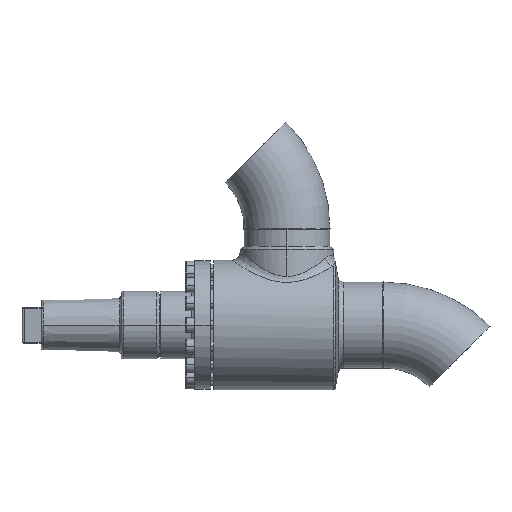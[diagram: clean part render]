
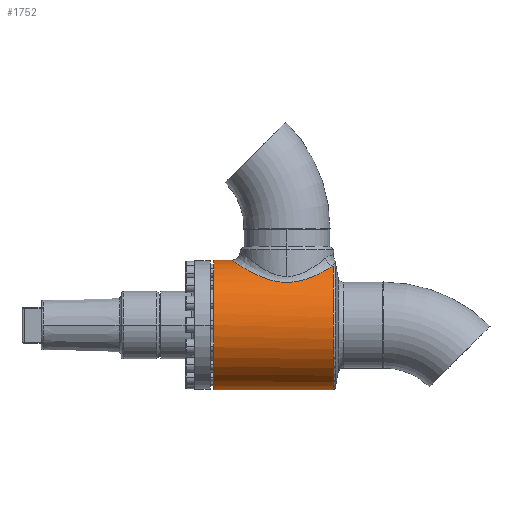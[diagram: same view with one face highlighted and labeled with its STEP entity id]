
A CAD part, left-side view. The second image highlights one B-rep face of the part: STEP entity #1752.
In plain terms, the highlighted cylindrical face has radius 57.5 mm (diameter 115 mm), a partial arc.
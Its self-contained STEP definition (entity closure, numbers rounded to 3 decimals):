
#786 = VERTEX_POINT ( 'NONE', #14498 ) ;
#17272 = VERTEX_POINT ( 'NONE', #11166 ) ;
#1007 = EDGE_CURVE ( 'NONE', #13046, #786, #14609, .T. ) ;
#1497 = ORIENTED_EDGE ( 'NONE', *, *, #7339, .T. ) ;
#1752 = ADVANCED_FACE ( 'NONE', ( #15184 ), #15185, .T. ) ;
#5185 = EDGE_CURVE ( 'NONE', #12570, #17272, #11923, .T. ) ;
#6863 = ORIENTED_EDGE ( 'NONE', *, *, #5185, .T. ) ;
#7339 = EDGE_CURVE ( 'NONE', #786, #12570, #9395, .T. ) ;
#9395 = B_SPLINE_CURVE_WITH_KNOTS ( 'NONE', 3,
 ( #9396, #9397, #9398, #9399, #9400, #9401, #9402, #9403, #9404, #9405, #9406, #9409, #9410, #9411, #9412, #9413, #9414, #9415, #9416, #9417, #9418, #9419, #9420, #9421, #9422, #9423, #9424, #9425, #9426, #9427, #9428, #9429, #9430, #9431, #9432, #9433, #9434, #9435, #9436, #9437, #9438, #9439, #9440, #9445, #9446, #9447, #9448, #9449, #9450, #9451, #9452, #9453, #9454, #9455, #9456, #9457, #9458, #9459, #9460, #9465, #9466, #9467 ),
 .UNSPECIFIED., .F., .F.,
 ( 4, 2, 2, 2, 2, 2, 2, 2, 2, 2, 2, 2, 2, 2, 2, 2, 2, 2, 2, 2, 2, 2, 2, 2, 2, 2, 2, 2, 2, 2, 4 ),
 ( 0., 0.008, 0.016, 0.017, 0.019, 0.023, 0.031, 0.035, 0.039, 0.047, 0.049, 0.05, 0.054, 0.058, 0.06, 0.062, 0.07, 0.074, 0.078, 0.085, 0.089, 0.091, 0.093, 0.101, 0.105, 0.107, 0.109, 0.116, 0.118, 0.12, 0.124 ),
 .UNSPECIFIED. ) ;
#9396 = CARTESIAN_POINT ( 'NONE',  ( -24.174, -105.892, 52.171 ) ) ;
#9397 = CARTESIAN_POINT ( 'NONE',  ( -26.132, -104.39, 51.264 ) ) ;
#9398 = CARTESIAN_POINT ( 'NONE',  ( -27.915, -102.76, 50.305 ) ) ;
#9399 = CARTESIAN_POINT ( 'NONE',  ( -31.195, -99.268, 48.34 ) ) ;
#9400 = CARTESIAN_POINT ( 'NONE',  ( -32.691, -97.405, 47.333 ) ) ;
#9401 = CARTESIAN_POINT ( 'NONE',  ( -34.397, -94.927, 46.079 ) ) ;
#9402 = CARTESIAN_POINT ( 'NONE',  ( -34.73, -94.424, 45.829 ) ) ;
#9403 = CARTESIAN_POINT ( 'NONE',  ( -35.379, -93.402, 45.329 ) ) ;
#9404 = CARTESIAN_POINT ( 'NONE',  ( -35.695, -92.884, 45.08 ) ) ;
#9405 = CARTESIAN_POINT ( 'NONE',  ( -36.613, -91.317, 44.344 ) ) ;
#9406 = CARTESIAN_POINT ( 'NONE',  ( -37.186, -90.253, 43.863 ) ) ;
#9409 = CARTESIAN_POINT ( 'NONE',  ( -38.793, -86.998, 42.466 ) ) ;
#9410 = CARTESIAN_POINT ( 'NONE',  ( -39.716, -84.747, 41.594 ) ) ;
#9411 = CARTESIAN_POINT ( 'NONE',  ( -40.882, -81.225, 40.437 ) ) ;
#9412 = CARTESIAN_POINT ( 'NONE',  ( -41.234, -80.027, 40.077 ) ) ;
#9413 = CARTESIAN_POINT ( 'NONE',  ( -41.862, -77.576, 39.421 ) ) ;
#9414 = CARTESIAN_POINT ( 'NONE',  ( -42.138, -76.319, 39.125 ) ) ;
#9415 = CARTESIAN_POINT ( 'NONE',  ( -42.831, -72.529, 38.37 ) ) ;
#9416 = CARTESIAN_POINT ( 'NONE',  ( -43.12, -69.961, 38.038 ) ) ;
#9417 = CARTESIAN_POINT ( 'NONE',  ( -43.257, -66.692, 37.883 ) ) ;
#9418 = CARTESIAN_POINT ( 'NONE',  ( -43.273, -66.034, 37.864 ) ) ;
#9419 = CARTESIAN_POINT ( 'NONE',  ( -43.282, -64.718, 37.854 ) ) ;
#9420 = CARTESIAN_POINT ( 'NONE',  ( -43.275, -64.063, 37.862 ) ) ;
#9421 = CARTESIAN_POINT ( 'NONE',  ( -43.219, -62.103, 37.926 ) ) ;
#9422 = CARTESIAN_POINT ( 'NONE',  ( -43.137, -60.806, 38.02 ) ) ;
#9423 = CARTESIAN_POINT ( 'NONE',  ( -42.884, -58.229, 38.305 ) ) ;
#9424 = CARTESIAN_POINT ( 'NONE',  ( -42.713, -56.95, 38.496 ) ) ;
#9425 = CARTESIAN_POINT ( 'NONE',  ( -42.391, -55.043, 38.85 ) ) ;
#9426 = CARTESIAN_POINT ( 'NONE',  ( -42.272, -54.408, 38.979 ) ) ;
#9427 = CARTESIAN_POINT ( 'NONE',  ( -42.014, -53.15, 39.257 ) ) ;
#9428 = CARTESIAN_POINT ( 'NONE',  ( -41.875, -52.528, 39.406 ) ) ;
#9429 = CARTESIAN_POINT ( 'NONE',  ( -41.13, -49.446, 40.191 ) ) ;
#9430 = CARTESIAN_POINT ( 'NONE',  ( -40.378, -47.077, 40.957 ) ) ;
#9431 = CARTESIAN_POINT ( 'NONE',  ( -39.022, -43.642, 42.237 ) ) ;
#9432 = CARTESIAN_POINT ( 'NONE',  ( -38.532, -42.517, 42.685 ) ) ;
#9433 = CARTESIAN_POINT ( 'NONE',  ( -37.473, -40.304, 43.618 ) ) ;
#9434 = CARTESIAN_POINT ( 'NONE',  ( -36.908, -39.223, 44.098 ) ) ;
#9435 = CARTESIAN_POINT ( 'NONE',  ( -35.115, -36.073, 45.559 ) ) ;
#9436 = CARTESIAN_POINT ( 'NONE',  ( -33.785, -34.085, 46.562 ) ) ;
#9437 = CARTESIAN_POINT ( 'NONE',  ( -31.574, -31.259, 48.064 ) ) ;
#9438 = CARTESIAN_POINT ( 'NONE',  ( -30.801, -30.343, 48.564 ) ) ;
#9439 = CARTESIAN_POINT ( 'NONE',  ( -29.582, -29.009, 49.309 ) ) ;
#9440 = CARTESIAN_POINT ( 'NONE',  ( -29.166, -28.57, 49.557 ) ) ;
#9445 = CARTESIAN_POINT ( 'NONE',  ( -28.313, -27.708, 50.049 ) ) ;
#9446 = CARTESIAN_POINT ( 'NONE',  ( -27.875, -27.282, 50.294 ) ) ;
#9447 = CARTESIAN_POINT ( 'NONE',  ( -25.646, -25.201, 51.504 ) ) ;
#9448 = CARTESIAN_POINT ( 'NONE',  ( -23.737, -23.688, 52.419 ) ) ;
#9449 = CARTESIAN_POINT ( 'NONE',  ( -20.66, -21.659, 53.671 ) ) ;
#9450 = CARTESIAN_POINT ( 'NONE',  ( -19.599, -21.023, 54.069 ) ) ;
#9451 = CARTESIAN_POINT ( 'NONE',  ( -17.948, -20.134, 54.63 ) ) ;
#9452 = CARTESIAN_POINT ( 'NONE',  ( -17.388, -19.848, 54.811 ) ) ;
#9453 = CARTESIAN_POINT ( 'NONE',  ( -16.247, -19.3, 55.16 ) ) ;
#9454 = CARTESIAN_POINT ( 'NONE',  ( -15.665, -19.037, 55.328 ) ) ;
#9455 = CARTESIAN_POINT ( 'NONE',  ( -12.734, -17.796, 56.125 ) ) ;
#9456 = CARTESIAN_POINT ( 'NONE',  ( -10.302, -17.028, 56.627 ) ) ;
#9457 = CARTESIAN_POINT ( 'NONE',  ( -7.142, -16.371, 57.058 ) ) ;
#9458 = CARTESIAN_POINT ( 'NONE',  ( -6.505, -16.254, 57.135 ) ) ;
#9459 = CARTESIAN_POINT ( 'NONE',  ( -5.216, -16.054, 57.267 ) ) ;
#9460 = CARTESIAN_POINT ( 'NONE',  ( -4.563, -15.969, 57.322 ) ) ;
#9465 = CARTESIAN_POINT ( 'NONE',  ( -2.602, -15.766, 57.456 ) ) ;
#9466 = CARTESIAN_POINT ( 'NONE',  ( -1.298, -15.7, 57.5 ) ) ;
#9467 = CARTESIAN_POINT ( 'NONE',  ( 0., -15.7, 57.5 ) ) ;
#9609 = VERTEX_POINT ( 'NONE', #14210 ) ;
#9828 = EDGE_CURVE ( 'NONE', #13046, #9609, #14452, .T. ) ;
#9986 = EDGE_LOOP ( 'NONE', ( #11980, #11479, #1497, #6863, #13427 ) ) ;
#10092 = CARTESIAN_POINT ( 'NONE',  ( 0., -15.7, 57.5 ) ) ;
#10572 = CARTESIAN_POINT ( 'NONE',  ( 0., -105.892, -57.5 ) ) ;
#10621 = CIRCLE ( 'NONE', #10622, 57.5 ) ;
#10622 = AXIS2_PLACEMENT_3D ( 'NONE', #10623, #10624, #10625 ) ;
#10623 = CARTESIAN_POINT ( 'NONE',  ( 0., 0., 0. ) ) ;
#10624 = DIRECTION ( 'NONE',  ( 0., 1., 0. ) ) ;
#10625 = DIRECTION ( 'NONE',  ( 0., 0., 1. ) ) ;
#11166 = CARTESIAN_POINT ( 'NONE',  ( 0., 0., 57.5 ) ) ;
#11479 = ORIENTED_EDGE ( 'NONE', *, *, #1007, .T. ) ;
#11923 = LINE ( 'NONE', #11924, #11925 ) ;
#11924 = CARTESIAN_POINT ( 'NONE',  ( 0., -111., 57.5 ) ) ;
#11925 = VECTOR ( 'NONE', #11926, 1000. ) ;
#11926 = DIRECTION ( 'NONE',  ( 0., 1., 0. ) ) ;
#11980 = ORIENTED_EDGE ( 'NONE', *, *, #9828, .F. ) ;
#12570 = VERTEX_POINT ( 'NONE', #10092 ) ;
#13046 = VERTEX_POINT ( 'NONE', #10572 ) ;
#13098 = EDGE_CURVE ( 'NONE', #9609, #17272, #10621, .T. ) ;
#13427 = ORIENTED_EDGE ( 'NONE', *, *, #13098, .F. ) ;
#14210 = CARTESIAN_POINT ( 'NONE',  ( 0., 0., -57.5 ) ) ;
#14452 = LINE ( 'NONE', #14453, #14454 ) ;
#14453 = CARTESIAN_POINT ( 'NONE',  ( 0., -111., -57.5 ) ) ;
#14454 = VECTOR ( 'NONE', #14455, 1000. ) ;
#14455 = DIRECTION ( 'NONE',  ( 0., 1., 0. ) ) ;
#14498 = CARTESIAN_POINT ( 'NONE',  ( -24.174, -105.892, 52.171 ) ) ;
#14609 = CIRCLE ( 'NONE', #14610, 57.5 ) ;
#14610 = AXIS2_PLACEMENT_3D ( 'NONE', #14611, #14612, #14613 ) ;
#14611 = CARTESIAN_POINT ( 'NONE',  ( 0., -105.892, 0. ) ) ;
#14612 = DIRECTION ( 'NONE',  ( 0., 1., 0. ) ) ;
#14613 = DIRECTION ( 'NONE',  ( 0., 0., -1. ) ) ;
#15184 = FACE_OUTER_BOUND ( 'NONE', #9986, .T. ) ;
#15185 = CYLINDRICAL_SURFACE ( 'NONE', #15186, 57.5 ) ;
#15186 = AXIS2_PLACEMENT_3D ( 'NONE', #15187, #15188, #15189 ) ;
#15187 = CARTESIAN_POINT ( 'NONE',  ( 0., -111., 0. ) ) ;
#15188 = DIRECTION ( 'NONE',  ( 0., 1., 0. ) ) ;
#15189 = DIRECTION ( 'NONE',  ( 0., 0., 1. ) ) ;
